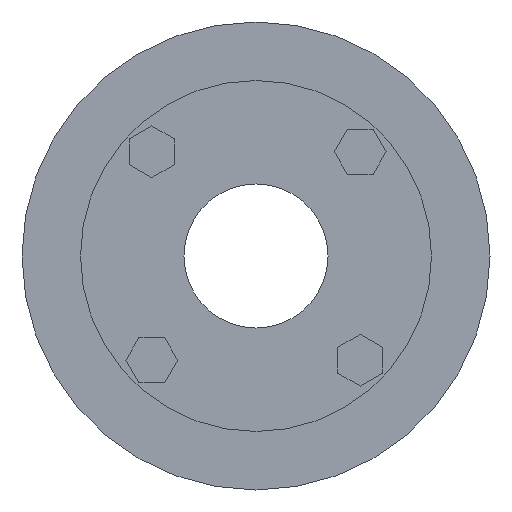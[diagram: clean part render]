
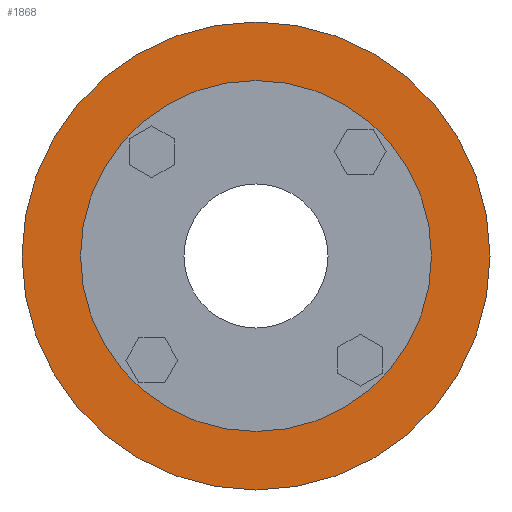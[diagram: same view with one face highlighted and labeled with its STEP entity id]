
A CAD part, left-side view. The second image highlights one B-rep face of the part: STEP entity #1868.
In plain terms, the highlighted planar face has unit normal (-1, 0, 0).
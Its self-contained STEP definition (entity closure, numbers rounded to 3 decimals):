
#198 = DIRECTION ( 'NONE',  ( 0., 0., -1. ) ) ;
#199 = DIRECTION ( 'NONE',  ( 1., 0., 0. ) ) ;
#200 = CARTESIAN_POINT ( 'NONE',  ( 18.1, 24.45, 0. ) ) ;
#201 = AXIS2_PLACEMENT_3D ( 'NONE', #200, #199, #198 ) ;
#202 = PLANE ( 'NONE',  #201 ) ;
#203 = CARTESIAN_POINT ( 'NONE',  ( 18.1, 0., 0. ) ) ;
#204 = FACE_OUTER_BOUND ( 'NONE', #1871, .T. ) ;
#205 = FACE_BOUND ( 'NONE', #1869, .T. ) ;
#206 = DIRECTION ( 'NONE',  ( 0., 0., 1. ) ) ;
#207 = DIRECTION ( 'NONE',  ( -1., 0., 0. ) ) ;
#208 = CARTESIAN_POINT ( 'NONE',  ( 18.1, 0., 0. ) ) ;
#209 = AXIS2_PLACEMENT_3D ( 'NONE', #208, #207, #206 ) ;
#210 = CIRCLE ( 'NONE', #209, 24.45 ) ;
#260 = DIRECTION ( 'NONE',  ( 0., 0., 1. ) ) ;
#261 = DIRECTION ( 'NONE',  ( -1., 0., 0. ) ) ;
#262 = AXIS2_PLACEMENT_3D ( 'NONE', #203, #261, #260 ) ;
#263 = CIRCLE ( 'NONE', #262, 52. ) ;
#773 = DIRECTION ( 'NONE',  ( 0., 0., 1. ) ) ;
#774 = DIRECTION ( 'NONE',  ( -1., 0., 0. ) ) ;
#775 = CARTESIAN_POINT ( 'NONE',  ( 18.1, 0., 0. ) ) ;
#776 = AXIS2_PLACEMENT_3D ( 'NONE', #775, #774, #773 ) ;
#777 = CIRCLE ( 'NONE', #776, 52. ) ;
#779 = CARTESIAN_POINT ( 'NONE',  ( 18.1, 0., -52. ) ) ;
#1620 = VERTEX_POINT ( 'NONE', #3167 ) ;
#1631 = VERTEX_POINT ( 'NONE', #3165 ) ;
#1633 = EDGE_CURVE ( 'NONE', #1631, #1634, #3164, .T. ) ;
#1634 = VERTEX_POINT ( 'NONE', #3159 ) ;
#1721 = VERTEX_POINT ( 'NONE', #779 ) ;
#1723 = EDGE_CURVE ( 'NONE', #1620, #1721, #777, .T. ) ;
#1867 = EDGE_CURVE ( 'NONE', #1634, #1631, #210, .T. ) ;
#1868 = ADVANCED_FACE ( 'NONE', ( #205, #204 ), #202, .F. ) ;
#1869 = EDGE_LOOP ( 'NONE', ( #1870, #1872 ) ) ;
#1870 = ORIENTED_EDGE ( 'NONE', *, *, #1867, .F. ) ;
#1871 = EDGE_LOOP ( 'NONE', ( #1873, #1874 ) ) ;
#1872 = ORIENTED_EDGE ( 'NONE', *, *, #1633, .F. ) ;
#1873 = ORIENTED_EDGE ( 'NONE', *, *, #1723, .T. ) ;
#1874 = ORIENTED_EDGE ( 'NONE', *, *, #1875, .T. ) ;
#1875 = EDGE_CURVE ( 'NONE', #1721, #1620, #263, .T. ) ;
#3159 = CARTESIAN_POINT ( 'NONE',  ( 18.1, 0., -24.45 ) ) ;
#3160 = DIRECTION ( 'NONE',  ( 0., 0., 1. ) ) ;
#3161 = DIRECTION ( 'NONE',  ( -1., 0., 0. ) ) ;
#3162 = CARTESIAN_POINT ( 'NONE',  ( 18.1, 0., 0. ) ) ;
#3163 = AXIS2_PLACEMENT_3D ( 'NONE', #3162, #3161, #3160 ) ;
#3164 = CIRCLE ( 'NONE', #3163, 24.45 ) ;
#3165 = CARTESIAN_POINT ( 'NONE',  ( 18.1, 0., 24.45 ) ) ;
#3167 = CARTESIAN_POINT ( 'NONE',  ( 18.1, 0., 52. ) ) ;
